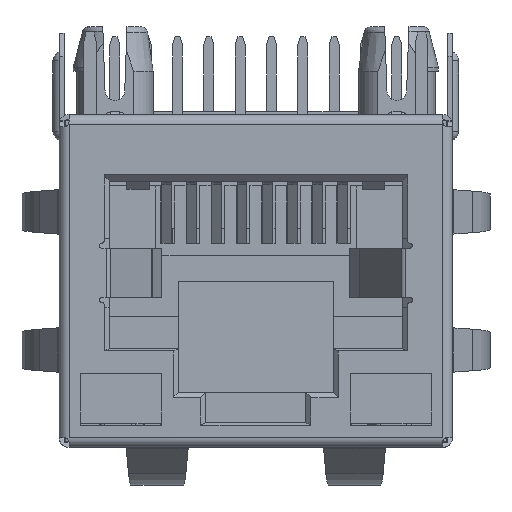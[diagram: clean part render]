
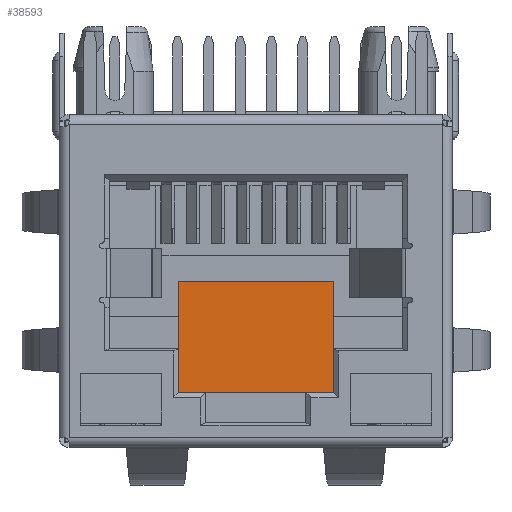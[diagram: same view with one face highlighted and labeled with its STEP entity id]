
A CAD part, front view. The second image highlights one B-rep face of the part: STEP entity #38593.
In plain terms, the highlighted planar face has unit normal (0, -1, 0).
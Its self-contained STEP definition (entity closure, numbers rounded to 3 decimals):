
#13255=DIRECTION('',(0.,0.,-1.));
#13256=VECTOR('',#13255,4.5);
#13257=CARTESIAN_POINT('',(3.15,10.35,6.72));
#13258=LINE('',#13257,#13256);
#13259=DIRECTION('',(-1.,0.,0.));
#13260=VECTOR('',#13259,6.3);
#13261=CARTESIAN_POINT('',(3.15,10.35,2.22));
#13262=LINE('',#13261,#13260);
#13263=DIRECTION('',(0.,0.,1.));
#13264=VECTOR('',#13263,4.5);
#13265=CARTESIAN_POINT('',(-3.15,10.35,2.22));
#13266=LINE('',#13265,#13264);
#13279=DIRECTION('',(-1.,0.,0.));
#13280=VECTOR('',#13279,6.3);
#13281=CARTESIAN_POINT('',(3.15,10.35,6.72));
#13282=LINE('',#13281,#13280);
#18170=CARTESIAN_POINT('',(-3.15,10.35,6.72));
#18171=VERTEX_POINT('',#18170);
#18172=CARTESIAN_POINT('',(-3.15,10.35,2.22));
#18173=VERTEX_POINT('',#18172);
#18316=CARTESIAN_POINT('',(3.15,10.35,6.72));
#18317=VERTEX_POINT('',#18316);
#18318=CARTESIAN_POINT('',(3.15,10.35,2.22));
#18319=VERTEX_POINT('',#18318);
#38581=CARTESIAN_POINT('',(0.,10.35,4.47));
#38582=DIRECTION('',(0.,1.,0.));
#38583=DIRECTION('',(1.,0.,0.));
#38584=AXIS2_PLACEMENT_3D('',#38581,#38582,#38583);
#38585=PLANE('',#38584);
#38587=ORIENTED_EDGE('',*,*,#38586,.F.);
#38588=ORIENTED_EDGE('',*,*,#38548,.T.);
#38589=ORIENTED_EDGE('',*,*,#38576,.T.);
#38590=ORIENTED_EDGE('',*,*,#26409,.T.);
#38591=EDGE_LOOP('',(#38587,#38588,#38589,#38590));
#38592=FACE_OUTER_BOUND('',#38591,.F.);
#38593=ADVANCED_FACE('',(#38592),#38585,.F.);
#26409=EDGE_CURVE('',#18173,#18171,#13266,.T.);
#38548=EDGE_CURVE('',#18317,#18319,#13258,.T.);
#38576=EDGE_CURVE('',#18319,#18173,#13262,.T.);
#38586=EDGE_CURVE('',#18317,#18171,#13282,.T.);
